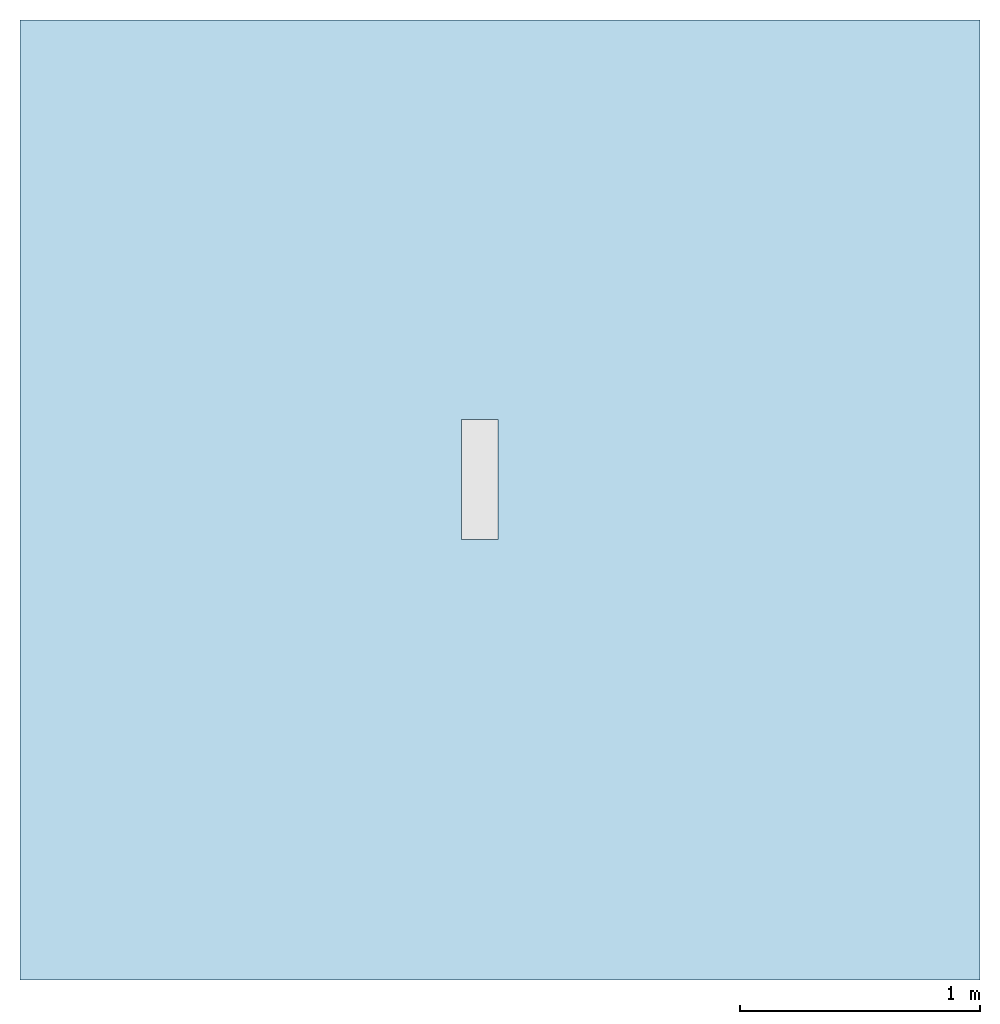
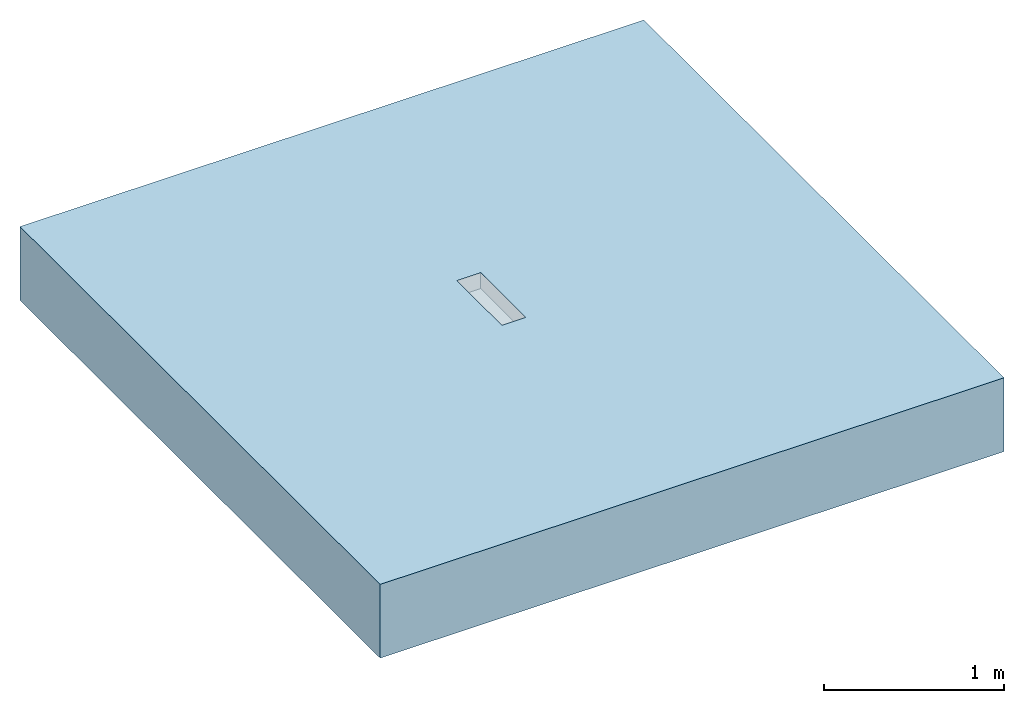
# One storey, incomplete: 1 slab, 1 opening.
"""IFC2X3 building model written with IfcOpenShell, lengths in millimetres."""

from ifc_helpers import new_model, entity, si_unit, converted_unit, direction, frame, frame_2d, origin, place, context, subcontext, project, spatial, rectangle, extrude, faceted_brep, material, layer, layer_set, layer_usage, element, save


model = new_model("IFC2X3")

# Units and contexts
model_context = context("Model", 3, precision=1e-06, world=origin(), true_north=direction((2.0, 6.12303176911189e-17, 1.0)))
context_of_model = context(None, 3, precision=1e-06, world=origin(), true_north=direction((2.0, 6.12303176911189e-17, 1.0)))
body_context = subcontext(model_context, "Body", "Model", "MODEL_VIEW")
ifc_project = project(units=[si_unit("LENGTHUNIT", "METRE", prefix="MILLI"), si_unit("AREAUNIT", "SQUARE_METRE", prefix="MILLI"), si_unit("VOLUMEUNIT", "CUBIC_METRE", prefix="MILLI"), converted_unit("PLANEANGLEUNIT", "DEGREE", entity("IfcRatioMeasure", 0.0174532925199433), si_unit("PLANEANGLEUNIT", "RADIAN"), dimensions=[0, 0, 0, 0, 0, 0, 0]), si_unit("TIMEUNIT", "SECOND")], contexts=[model_context, context_of_model])

# Site, building, storey
site_placement = place(None, origin())
site = spatial("IfcSite", under=ifc_project, at=site_placement, Name="Default", CompositionType="ELEMENT")
building_placement = place(site_placement, origin())
building = spatial("IfcBuilding", under=site, at=building_placement, CompositionType="ELEMENT")
storey_placement = place(building_placement, origin())
storey = spatial("IfcBuildingStorey", under=building, at=storey_placement, Name="Level 1", CompositionType="ELEMENT", Elevation=0.0)

# Slab, opening
ifc_material = material(Name="Concrete, Broom Finish")
ifc_layer = layer(ifc_material, 500.0)
ifc_layer_set = layer_set([ifc_layer], Name="Floor:Generic Floor - 500mm")
ifc_layer_usage = layer_usage(ifc_layer_set, "AXIS3", "POSITIVE", 0.0)
slab_placement = place(storey_placement, origin())
slab = element("IfcSlab", 1, at=slab_placement, inside=storey, material=ifc_layer_usage, Name="Floor:Generic Floor - 500mm", ObjectType="Floor:Generic Floor - 500mm", PredefinedType="FLOOR", context=body_context, shape_type="SweptSolid", body=[
    extrude(rectangle(XDim=4000.0, YDim=4000.0, at=frame_2d((0.0, 0.0), x_axis=(-1.0, 0.0))), frame((-419.114478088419, -735.273497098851, 0.0), z_axis=(0.0, 0.0, -1.0), x_axis=(-1.0, 0.0, 0.0)), (0.0, 0.0, 1.0), 500.0),
])
opening_placement = place(slab_placement, frame((-579.562093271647, -900.871697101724, -211.999997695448)))
element("IfcOpeningElement", 2, at=opening_placement, cuts=slab, ObjectType="Recess", context=body_context, shape_type="Brep", body=[
    faceted_brep([(0.0, 0.0, 104.19999769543), (153.0, 0.0, 211.99999769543), (153.0, 0.0, 104.19999769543), (0.0, 0.0, 211.99999769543), (153.0, 500.0, 104.19999769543), (0.0, 500.0, 211.99999769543), (0.0, 500.0, 104.19999769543), (153.0, 500.0, 211.99999769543), (76.4999999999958, 20.0, 104.19999769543), (62.2649525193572, 21.8740795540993, 104.19999769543), (49.0, 27.3686027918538, 104.19999769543), (28.8686027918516, 47.4999999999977, 104.19999769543), (23.3740795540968, 60.764952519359, 104.19999769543), (37.6091270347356, 36.1091270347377, 104.19999769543), (21.4999999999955, 75.0, 104.19999769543), (104.0, 27.3686027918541, 104.19999769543), (90.7350474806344, 21.8740795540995, 104.19999769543), (115.390872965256, 36.1091270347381, 104.19999769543), (124.13139720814, 47.4999999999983, 104.19999769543), (131.499999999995, 75.0, 104.19999769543), (129.625920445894, 60.7649525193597, 104.19999769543), (129.625920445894, 89.2350474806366, 104.19999769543), (23.3740795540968, 89.235047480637, 104.19999769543), (28.8686027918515, 102.499999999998, 104.19999769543), (49.0, 122.631397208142, 104.19999769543), (37.6091270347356, 113.890872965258, 104.19999769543), (62.2649525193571, 128.125920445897, 104.19999769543), (76.4999999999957, 130.0, 104.19999769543), (115.390872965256, 113.890872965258, 104.19999769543), (124.13139720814, 102.499999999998, 104.19999769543), (90.7350474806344, 128.125920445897, 104.19999769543), (104.0, 122.631397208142, 104.19999769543), (62.2649525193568, 21.8740795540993, 0.0), (76.4999999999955, 20.0, 0.0), (49.0, 27.3686027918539, 0.0), (37.6091270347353, 36.109127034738, 0.0), (28.8686027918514, 47.4999999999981, 0.0), (23.3740795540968, 60.7649525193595, 0.0), (124.13139720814, 47.499999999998, 0.0), (23.3740795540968, 89.2350474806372, 0.0), (90.7350474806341, 21.8740795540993, 0.0), (104.0, 27.3686027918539, 0.0), (115.390872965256, 36.1091270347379, 0.0), (129.625920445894, 60.7649525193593, 0.0), (131.499999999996, 75.0, 0.0), (21.4999999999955, 75.0, 0.0), (115.390872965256, 113.890872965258, 0.0), (28.8686027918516, 102.499999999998, 0.0), (37.6091270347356, 113.890872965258, 0.0), (49.0, 122.631397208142, 0.0), (76.4999999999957, 130.0, 0.0), (62.264952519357, 128.125920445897, 0.0), (129.625920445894, 89.2350474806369, 0.0), (124.13139720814, 102.499999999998, 0.0), (104.0, 122.631397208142, 0.0), (90.7350474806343, 128.125920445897, 0.0)], [[[0, 1, 2]], [[1, 0, 3]], [[4, 5, 6]], [[5, 4, 7]], [[7, 1, 3]], [[3, 5, 7]], [[6, 3, 0]], [[3, 6, 5]], [[8, 9, 0]], [[10, 0, 9]], [[2, 8, 0]], [[0, 11, 12]], [[0, 10, 13]], [[0, 13, 11]], [[12, 14, 0]], [[15, 16, 2]], [[8, 2, 16]], [[17, 15, 2]], [[2, 18, 17]], [[2, 19, 20]], [[2, 20, 18]], [[21, 19, 2]], [[22, 0, 14]], [[6, 22, 23]], [[24, 6, 25]], [[23, 25, 6]], [[6, 24, 26]], [[26, 27, 6]], [[22, 6, 0]], [[4, 28, 29]], [[4, 29, 21]], [[4, 27, 30]], [[28, 4, 31]], [[30, 31, 4]], [[4, 6, 27]], [[2, 4, 21]], [[7, 2, 1]], [[2, 7, 4]], [[32, 33, 34]], [[35, 34, 36]], [[37, 34, 38]], [[36, 34, 37]], [[37, 38, 39]], [[40, 41, 33]], [[42, 33, 41]], [[33, 42, 34]], [[42, 38, 34]], [[43, 44, 38]], [[45, 37, 39]], [[39, 46, 47]], [[48, 47, 49]], [[50, 51, 49]], [[46, 49, 47]], [[49, 46, 50]], [[52, 53, 44]], [[44, 53, 38]], [[54, 55, 46]], [[46, 39, 53]], [[46, 55, 50]], [[39, 38, 53]], [[53, 52, 21]], [[53, 29, 46]], [[55, 54, 31]], [[28, 54, 46]], [[50, 55, 30]], [[44, 19, 52]], [[19, 21, 52]], [[21, 29, 53]], [[29, 28, 46]], [[54, 28, 31]], [[31, 30, 55]], [[30, 27, 50]], [[49, 51, 26]], [[49, 24, 48]], [[39, 47, 23]], [[25, 47, 48]], [[45, 39, 22]], [[27, 26, 51]], [[26, 24, 49]], [[24, 25, 48]], [[25, 23, 47]], [[39, 23, 22]], [[22, 14, 45]], [[50, 27, 51]], [[37, 45, 12]], [[36, 37, 11]], [[32, 34, 10]], [[32, 9, 33]], [[12, 11, 37]], [[45, 14, 12]], [[11, 13, 35]], [[13, 34, 35]], [[10, 34, 13]], [[10, 9, 32]], [[36, 11, 35]], [[9, 8, 33]], [[41, 40, 16]], [[41, 15, 42]], [[43, 38, 18]], [[17, 38, 42]], [[44, 43, 20]], [[8, 16, 40]], [[16, 15, 41]], [[15, 17, 42]], [[17, 18, 38]], [[43, 18, 20]], [[20, 19, 44]], [[33, 8, 40]]]),
])

save(model, "model.ifc")
